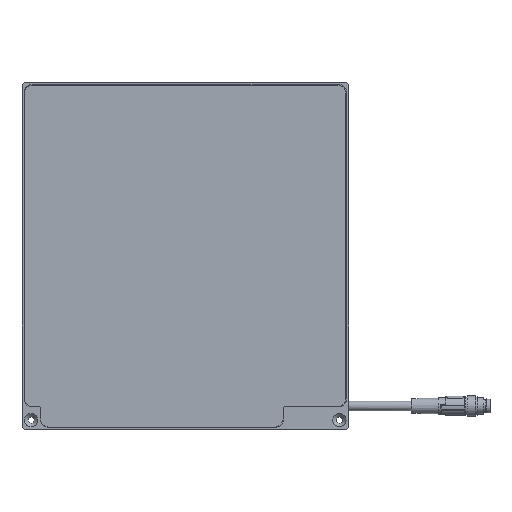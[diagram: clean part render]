
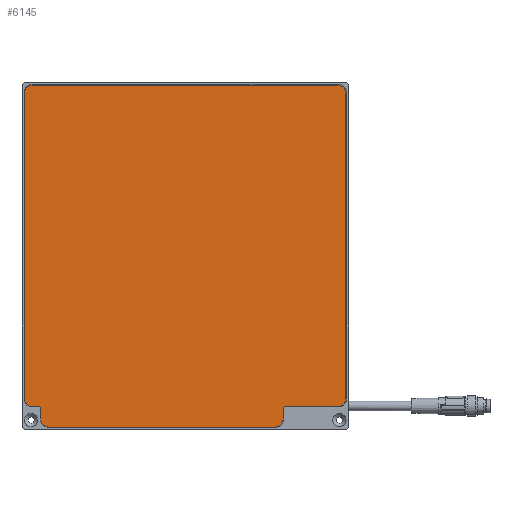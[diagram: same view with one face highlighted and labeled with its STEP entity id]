
A CAD part, top view. The second image highlights one B-rep face of the part: STEP entity #6145.
In plain terms, the highlighted planar face has unit normal (0, 0, 1).
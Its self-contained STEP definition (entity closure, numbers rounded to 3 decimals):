
#171=CIRCLE('',#8879,4.1);
#172=CIRCLE('',#8880,4.1);
#173=CIRCLE('',#8881,4.1);
#174=CIRCLE('',#8882,4.1);
#175=CIRCLE('',#8883,4.1);
#176=CIRCLE('',#8884,4.1);
#373=ORIENTED_EDGE('',*,*,#2146,.F.);
#374=ORIENTED_EDGE('',*,*,#2155,.T.);
#375=ORIENTED_EDGE('',*,*,#2142,.F.);
#376=ORIENTED_EDGE('',*,*,#2156,.T.);
#377=ORIENTED_EDGE('',*,*,#2141,.F.);
#378=ORIENTED_EDGE('',*,*,#2157,.T.);
#379=ORIENTED_EDGE('',*,*,#2131,.F.);
#380=ORIENTED_EDGE('',*,*,#2158,.T.);
#381=ORIENTED_EDGE('',*,*,#2127,.F.);
#382=ORIENTED_EDGE('',*,*,#2159,.T.);
#383=ORIENTED_EDGE('',*,*,#2123,.F.);
#384=ORIENTED_EDGE('',*,*,#2160,.T.);
#385=ORIENTED_EDGE('',*,*,#2119,.F.);
#386=ORIENTED_EDGE('',*,*,#2161,.T.);
#387=ORIENTED_EDGE('',*,*,#2154,.F.);
#388=ORIENTED_EDGE('',*,*,#2162,.T.);
#2119=EDGE_CURVE('',#3012,#3013,#3623,.T.);
#2123=EDGE_CURVE('',#3016,#3017,#3627,.T.);
#2127=EDGE_CURVE('',#3020,#3021,#3631,.T.);
#2131=EDGE_CURVE('',#3024,#3025,#3635,.T.);
#2141=EDGE_CURVE('',#3033,#3030,#3645,.T.);
#2142=EDGE_CURVE('',#3034,#3035,#3646,.T.);
#2146=EDGE_CURVE('',#3038,#3039,#3650,.T.);
#2154=EDGE_CURVE('',#3044,#3042,#3658,.T.);
#2155=EDGE_CURVE('',#3038,#3035,#171,.F.);
#2156=EDGE_CURVE('',#3034,#3030,#172,.F.);
#2157=EDGE_CURVE('',#3033,#3025,#3659,.F.);
#2158=EDGE_CURVE('',#3024,#3021,#173,.F.);
#2159=EDGE_CURVE('',#3020,#3017,#174,.F.);
#2160=EDGE_CURVE('',#3016,#3013,#175,.F.);
#2161=EDGE_CURVE('',#3012,#3042,#176,.F.);
#2162=EDGE_CURVE('',#3044,#3039,#3660,.F.);
#3012=VERTEX_POINT('',#11072);
#3013=VERTEX_POINT('',#11073);
#3016=VERTEX_POINT('',#11081);
#3017=VERTEX_POINT('',#11082);
#3020=VERTEX_POINT('',#11090);
#3021=VERTEX_POINT('',#11091);
#3024=VERTEX_POINT('',#11099);
#3025=VERTEX_POINT('',#11100);
#3030=VERTEX_POINT('',#11112);
#3033=VERTEX_POINT('',#11118);
#3034=VERTEX_POINT('',#11122);
#3035=VERTEX_POINT('',#11123);
#3038=VERTEX_POINT('',#11131);
#3039=VERTEX_POINT('',#11132);
#3042=VERTEX_POINT('',#11141);
#3044=VERTEX_POINT('',#11145);
#3623=LINE('',#11071,#4299);
#3627=LINE('',#11080,#4303);
#3631=LINE('',#11089,#4307);
#3635=LINE('',#11098,#4311);
#3645=LINE('',#11119,#4321);
#3646=LINE('',#11121,#4322);
#3650=LINE('',#11130,#4326);
#3658=LINE('',#11146,#4334);
#3659=LINE('',#11150,#4335);
#3660=LINE('',#11155,#4336);
#4299=VECTOR('',#9383,1000.);
#4303=VECTOR('',#9389,1000.);
#4307=VECTOR('',#9395,1000.);
#4311=VECTOR('',#9401,1000.);
#4321=VECTOR('',#9413,1000.);
#4322=VECTOR('',#9416,1000.);
#4326=VECTOR('',#9422,1000.);
#4334=VECTOR('',#9432,1000.);
#4335=VECTOR('',#9439,1000.);
#4336=VECTOR('',#9448,1000.);
#4981=EDGE_LOOP('',(#373,#374,#375,#376,#377,#378,#379,#380,#381,#382,#383,
#384,#385,#386,#387,#388));
#5431=FACE_BOUND('',#4981,.T.);
#5881=PLANE('',#8878);
#6145=ADVANCED_FACE('',(#5431),#5881,.F.);
#8878=AXIS2_PLACEMENT_3D('',#11147,#9433,#9434);
#8879=AXIS2_PLACEMENT_3D('',#11148,#9435,#9436);
#8880=AXIS2_PLACEMENT_3D('',#11149,#9437,#9438);
#8881=AXIS2_PLACEMENT_3D('',#11151,#9440,#9441);
#8882=AXIS2_PLACEMENT_3D('',#11152,#9442,#9443);
#8883=AXIS2_PLACEMENT_3D('',#11153,#9444,#9445);
#8884=AXIS2_PLACEMENT_3D('',#11154,#9446,#9447);
#9383=DIRECTION('',(0.,1.,0.));
#9389=DIRECTION('',(1.,0.,0.));
#9395=DIRECTION('',(0.,-1.,0.));
#9401=DIRECTION('',(-1.,0.,0.));
#9413=DIRECTION('',(0.,-1.,0.));
#9416=DIRECTION('',(-1.,0.,0.));
#9422=DIRECTION('',(0.,1.,0.));
#9432=DIRECTION('',(-1.,0.,0.));
#9433=DIRECTION('',(0.,0.,-1.));
#9434=DIRECTION('',(-1.,0.,0.));
#9435=DIRECTION('',(0.,0.,-1.));
#9436=DIRECTION('',(-1.,0.,0.));
#9437=DIRECTION('',(0.,0.,-1.));
#9438=DIRECTION('',(-1.,0.,0.));
#9439=DIRECTION('',(-0.707,-0.707,0.));
#9440=DIRECTION('',(0.,0.,-1.));
#9441=DIRECTION('',(-1.,0.,0.));
#9442=DIRECTION('',(0.,0.,-1.));
#9443=DIRECTION('',(-1.,0.,0.));
#9444=DIRECTION('',(0.,0.,-1.));
#9445=DIRECTION('',(-1.,0.,0.));
#9446=DIRECTION('',(0.,0.,-1.));
#9447=DIRECTION('',(-1.,0.,0.));
#9448=DIRECTION('',(-0.707,0.707,0.));
#11071=CARTESIAN_POINT('',(-79.4,-79.4,0.));
#11072=CARTESIAN_POINT('',(-79.4,-75.3,0.));
#11073=CARTESIAN_POINT('',(-79.4,75.1,0.));
#11080=CARTESIAN_POINT('',(-79.4,79.2,0.));
#11081=CARTESIAN_POINT('',(-75.3,79.2,0.));
#11082=CARTESIAN_POINT('',(75.1,79.2,0.));
#11089=CARTESIAN_POINT('',(79.2,79.2,0.));
#11090=CARTESIAN_POINT('',(79.2,75.1,0.));
#11091=CARTESIAN_POINT('',(79.2,-75.3,0.));
#11098=CARTESIAN_POINT('',(48.2,-79.4,0.));
#11099=CARTESIAN_POINT('',(75.1,-79.4,0.));
#11100=CARTESIAN_POINT('',(48.7,-79.4,0.));
#11112=CARTESIAN_POINT('',(48.2,-85.3,0.));
#11118=CARTESIAN_POINT('',(48.2,-79.9,0.));
#11119=CARTESIAN_POINT('',(48.2,-89.4,0.));
#11121=CARTESIAN_POINT('',(48.2,-89.4,0.));
#11122=CARTESIAN_POINT('',(44.1,-89.4,0.));
#11123=CARTESIAN_POINT('',(-67.3,-89.4,0.));
#11130=CARTESIAN_POINT('',(-71.4,-89.4,0.));
#11131=CARTESIAN_POINT('',(-71.4,-85.3,0.));
#11132=CARTESIAN_POINT('',(-71.4,-79.9,0.));
#11141=CARTESIAN_POINT('',(-75.3,-79.4,0.));
#11145=CARTESIAN_POINT('',(-71.9,-79.4,0.));
#11146=CARTESIAN_POINT('',(-71.4,-79.4,0.));
#11147=CARTESIAN_POINT('',(-0.1,-0.2,0.));
#11148=CARTESIAN_POINT('',(-67.3,-85.3,0.));
#11149=CARTESIAN_POINT('',(44.1,-85.3,0.));
#11150=CARTESIAN_POINT('',(63.9,-64.2,0.));
#11151=CARTESIAN_POINT('',(75.1,-75.3,0.));
#11152=CARTESIAN_POINT('',(75.1,75.1,0.));
#11153=CARTESIAN_POINT('',(-75.3,75.1,0.));
#11154=CARTESIAN_POINT('',(-75.3,-75.3,0.));
#11155=CARTESIAN_POINT('',(-75.6,-75.7,0.));
